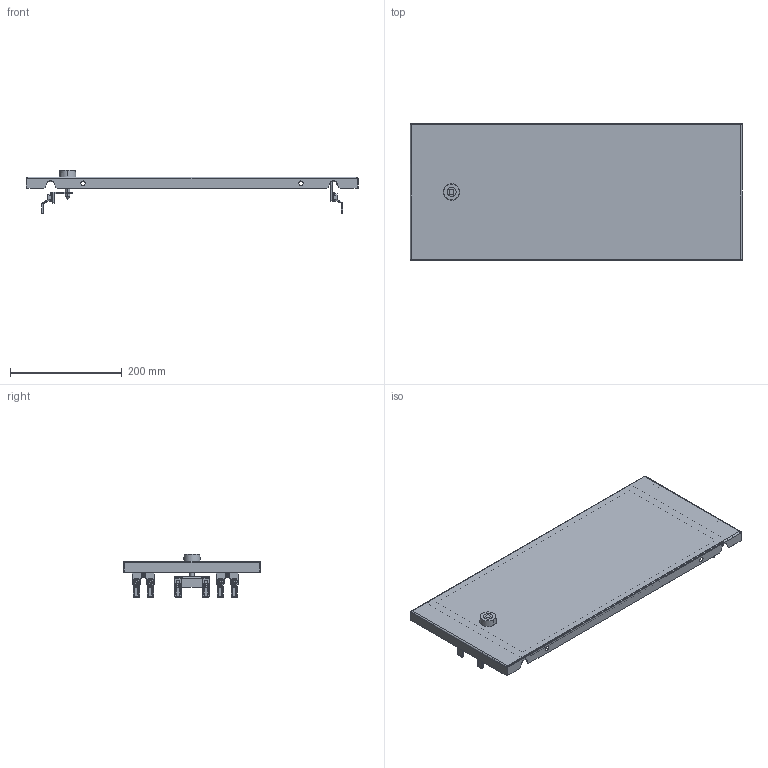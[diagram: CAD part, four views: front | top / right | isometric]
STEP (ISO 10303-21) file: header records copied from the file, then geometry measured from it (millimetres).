
FILE_DESCRIPTION(('CAx-IF Rec.Pracs.---Model Styling and Organization---1.2---2011-12-15','CAx-IF Rec.Pracs.---Geometric and Assembly Validation Properties---4.1---2014-06-16','CAx-IF Rec.Pracs.---PMI Polyline Presentation---2.0---2013-05-24'),'2;1');
FILE_NAME('R5M2WCPME5M.stp','2021-05-05T13:00:52+03:00',(''),(''),'STEP Interface 4.4 by CT CoreTechnologie','3D_Evolution4.4 by CT CoreTechnologie','');
FILE_SCHEMA(('AUTOMOTIVE_DESIGN { 1 0 10303 214 1 1 1 1 }'));
Length unit declared in the file: millimetre
Products named in the file (15): R5M2WCPME5M; AC00C745; MS737-1-1; MS737-1-1 Z_ ªàëâ; MS737-1-1 stop_fixed; RB.0687.00.00.1_-00; RB.1586.00.00.0 ÑÁ_-01 (R5M2WCPME5M); RB.1586.00.01.0_-01 (R5M2WCPME5M); PF 7x14 MCC2.0_0250x0600; AC00C266; Ì6õ12-A5100231_straight; AC00C061_AC00C061; AC00C485; M6 x 16-DIN 7991 ISR_thread; RB.0116.00.00.2_-00
Assembly tree (27 placements, depth 3):
  R5M2WCPME5M
    AC00C745  x2
    MS737-1-1
      MS737-1-1 Z_ ªàëâ
      MS737-1-1 stop_fixed
    RB.0687.00.00.1_-00
    RB.1586.00.00.0 ÑÁ_-01 (R5M2WCPME5M)
      RB.1586.00.01.0_-01 (R5M2WCPME5M)
      PF 7x14 MCC2.0_0250x0600
      AC00C266  x2
      Ì6õ12-A5100231_straight
      AC00C061_AC00C061
    AC00C485  x6
    M6 x 16-DIN 7991 ISR_thread  x6
    RB.0116.00.00.2_-00  x2
Bounding box: 594 x 245 x 77.45 mm (x, y, z)
Surface area: 447406.1 mm2 (no closed solid volume)
Topology: 0 solids, 37 shells, 1202 faces, 2979 edges, 1833 vertices
Faces by surface type: plane 485, cylinder 467, bspline 250
Entity records: 20640 total; most frequent: CARTESIAN_POINT 6425, ORIENTED_EDGE 2808, DIRECTION 2781, EDGE_CURVE 1404, AXIS2_PLACEMENT_3D 971, VERTEX_POINT 889, VECTOR 839, LINE 839
